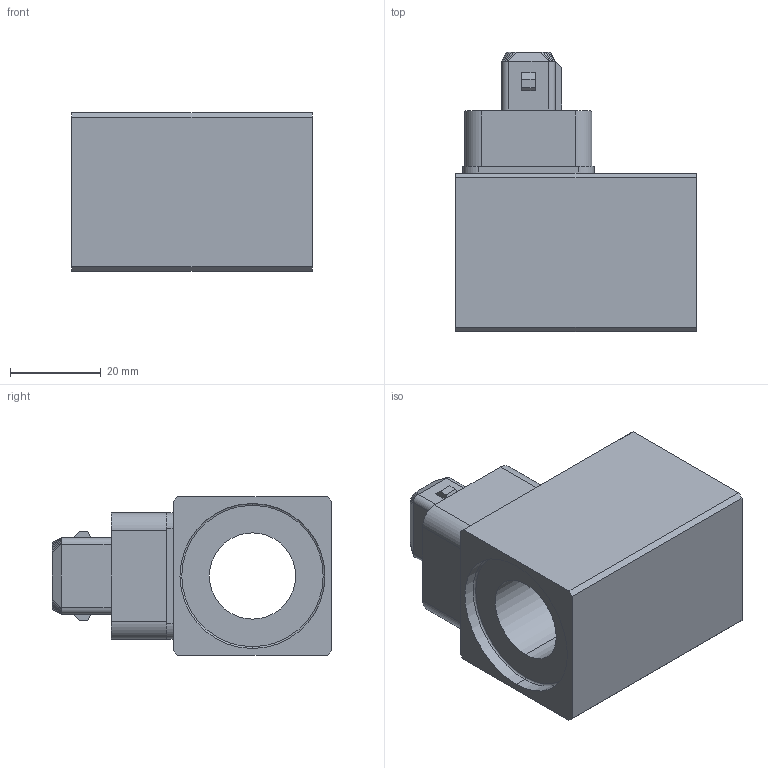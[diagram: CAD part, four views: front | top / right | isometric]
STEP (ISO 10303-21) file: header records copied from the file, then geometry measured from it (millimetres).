
FILE_DESCRIPTION (( 'STEP AP214' ), '1' );
FILE_NAME ('MJS35_19x50.STEP', '2015-07-16T08:23:54', ( '' ), ( '' ), 'SwSTEP 2.0', 'SolidWorks 2014', '' );
FILE_SCHEMA (( 'AUTOMOTIVE_DESIGN' ));
Length unit declared in the file: millimetre
Products named in the file (2): MJS35_19x50
Bounding box: 53 x 61.7 x 35 mm (x, y, z)
Volume: 57805 mm3; surface area: 27215.5 mm2
Topology: 2 solids, 5 shells, 359 faces, 947 edges, 618 vertices
Faces by surface type: plane 248, cylinder 93, cone 8, torus 6, bspline 4
Entity records: 15073 total; most frequent: CARTESIAN_POINT 2344, ORIENTED_EDGE 1894, DIRECTION 1828, EDGE_CURVE 947, VECTOR 668, LINE 668, VERTEX_POINT 618, AXIS2_PLACEMENT_3D 580
